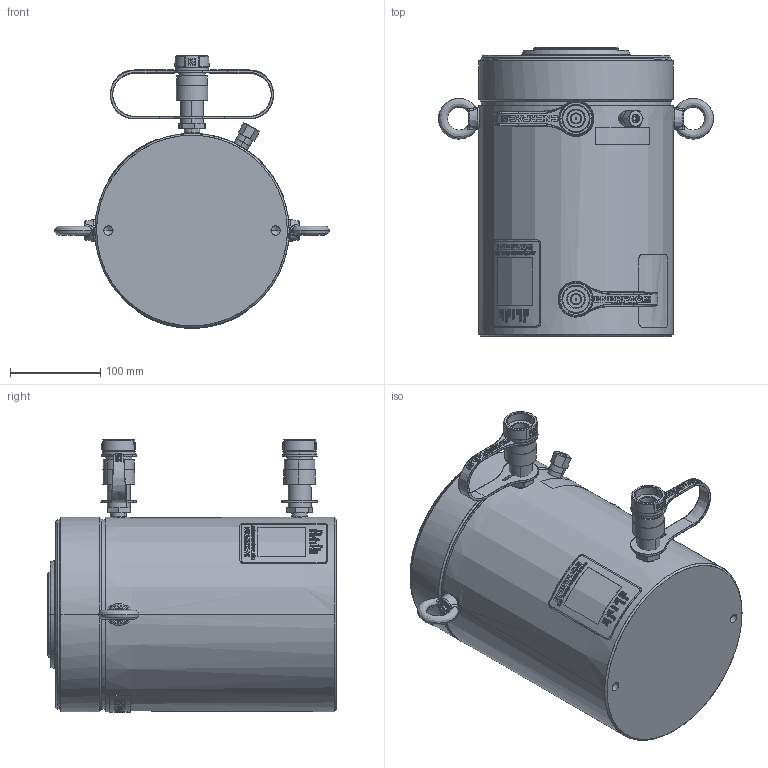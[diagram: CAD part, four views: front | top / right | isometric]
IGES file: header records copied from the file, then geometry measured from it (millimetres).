
Start section:  PTC IGES file: hcr1506.igs
Global section: file name: hcr1506.igs; native system: Creo Parametric by PTC Inc.; preprocessor: 2015290; author: Akhilesh.Subrahmanya; organization: Unknown; date: 20170622.110410; units: millimetre
Bounding box: 303.98 x 320 x 301.62 mm (x, y, z)
Surface area: 620774.7 mm2 (no closed solid volume)
Topology: 0 solids, 0 shells, 1063 faces, 8346 edges, 8335 vertices
Faces by surface type: revolution 556, bspline 479, extrusion 28
